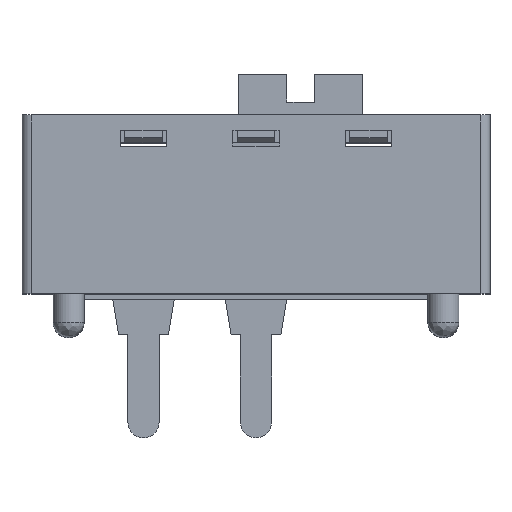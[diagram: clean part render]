
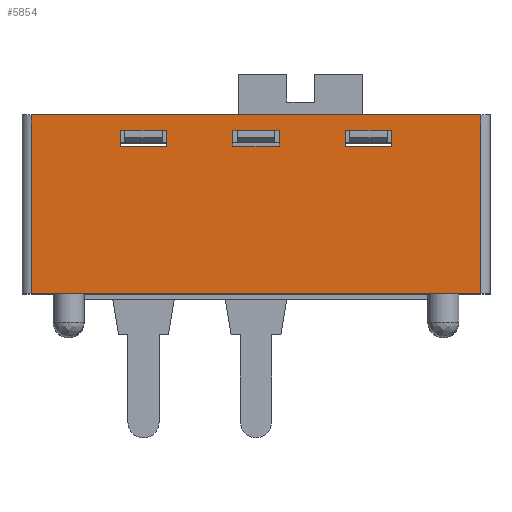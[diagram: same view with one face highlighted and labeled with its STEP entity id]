
A CAD part, top view. The second image highlights one B-rep face of the part: STEP entity #5854.
In plain terms, the highlighted planar face has unit normal (0, 0, 1).
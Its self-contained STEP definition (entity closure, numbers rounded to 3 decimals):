
#1396=ORIENTED_EDGE('',*,*,#2043,.T.);
#1397=ORIENTED_EDGE('',*,*,#2060,.F.);
#1398=ORIENTED_EDGE('',*,*,#2058,.F.);
#1399=ORIENTED_EDGE('',*,*,#2055,.F.);
#1400=ORIENTED_EDGE('',*,*,#2052,.F.);
#1401=ORIENTED_EDGE('',*,*,#2047,.F.);
#1402=ORIENTED_EDGE('',*,*,#2009,.T.);
#1403=ORIENTED_EDGE('',*,*,#2026,.F.);
#1404=ORIENTED_EDGE('',*,*,#2024,.F.);
#1405=ORIENTED_EDGE('',*,*,#2021,.F.);
#1406=ORIENTED_EDGE('',*,*,#2018,.F.);
#1407=ORIENTED_EDGE('',*,*,#2013,.F.);
#1408=ORIENTED_EDGE('',*,*,#2163,.T.);
#1409=ORIENTED_EDGE('',*,*,#2176,.F.);
#1410=ORIENTED_EDGE('',*,*,#2179,.F.);
#1411=ORIENTED_EDGE('',*,*,#2182,.F.);
#1412=ORIENTED_EDGE('',*,*,#2185,.F.);
#1413=ORIENTED_EDGE('',*,*,#2186,.F.);
#1414=ORIENTED_EDGE('',*,*,#2523,.T.);
#1415=ORIENTED_EDGE('',*,*,#2535,.T.);
#1416=ORIENTED_EDGE('',*,*,#2536,.T.);
#1417=ORIENTED_EDGE('',*,*,#2537,.T.);
#2009=EDGE_CURVE('',#2796,#2797,#3395,.T.);
#2013=EDGE_CURVE('',#2796,#2799,#3399,.T.);
#2018=EDGE_CURVE('',#2799,#2801,#3404,.T.);
#2021=EDGE_CURVE('',#2801,#2803,#3407,.T.);
#2024=EDGE_CURVE('',#2803,#2805,#3410,.T.);
#2026=EDGE_CURVE('',#2805,#2797,#3412,.T.);
#2043=EDGE_CURVE('',#2818,#2819,#3429,.T.);
#2047=EDGE_CURVE('',#2818,#2821,#3433,.T.);
#2052=EDGE_CURVE('',#2821,#2823,#3438,.T.);
#2055=EDGE_CURVE('',#2823,#2825,#3441,.T.);
#2058=EDGE_CURVE('',#2825,#2827,#3444,.T.);
#2060=EDGE_CURVE('',#2827,#2819,#3446,.T.);
#2163=EDGE_CURVE('',#2898,#2901,#3533,.T.);
#2176=EDGE_CURVE('',#2910,#2901,#3546,.T.);
#2179=EDGE_CURVE('',#2912,#2910,#3549,.T.);
#2182=EDGE_CURVE('',#2914,#2912,#3552,.T.);
#2185=EDGE_CURVE('',#2916,#2914,#3555,.T.);
#2186=EDGE_CURVE('',#2898,#2916,#3556,.T.);
#2523=EDGE_CURVE('',#3133,#3132,#3857,.T.);
#2535=EDGE_CURVE('',#3132,#3140,#3865,.T.);
#2536=EDGE_CURVE('',#3140,#3141,#3866,.T.);
#2537=EDGE_CURVE('',#3141,#3133,#3867,.T.);
#2796=VERTEX_POINT('',#8133);
#2797=VERTEX_POINT('',#8135);
#2799=VERTEX_POINT('',#8144);
#2801=VERTEX_POINT('',#8150);
#2803=VERTEX_POINT('',#8156);
#2805=VERTEX_POINT('',#8162);
#2818=VERTEX_POINT('',#8200);
#2819=VERTEX_POINT('',#8202);
#2821=VERTEX_POINT('',#8211);
#2823=VERTEX_POINT('',#8217);
#2825=VERTEX_POINT('',#8223);
#2827=VERTEX_POINT('',#8229);
#2898=VERTEX_POINT('',#8436);
#2901=VERTEX_POINT('',#8441);
#2910=VERTEX_POINT('',#8467);
#2912=VERTEX_POINT('',#8473);
#2914=VERTEX_POINT('',#8479);
#2916=VERTEX_POINT('',#8485);
#3132=VERTEX_POINT('',#9258);
#3133=VERTEX_POINT('',#9260);
#3140=VERTEX_POINT('',#9282);
#3141=VERTEX_POINT('',#9286);
#3395=LINE('',#8136,#4169);
#3399=LINE('',#8143,#4173);
#3404=LINE('',#8153,#4178);
#3407=LINE('',#8159,#4181);
#3410=LINE('',#8165,#4184);
#3412=LINE('',#8168,#4186);
#3429=LINE('',#8203,#4203);
#3433=LINE('',#8210,#4207);
#3438=LINE('',#8220,#4212);
#3441=LINE('',#8226,#4215);
#3444=LINE('',#8232,#4218);
#3446=LINE('',#8235,#4220);
#3533=LINE('',#8442,#4307);
#3546=LINE('',#8468,#4320);
#3549=LINE('',#8474,#4323);
#3552=LINE('',#8480,#4326);
#3555=LINE('',#8486,#4329);
#3556=LINE('',#8488,#4330);
#3857=LINE('',#9259,#4631);
#3865=LINE('',#9283,#4639);
#3866=LINE('',#9285,#4640);
#3867=LINE('',#9287,#4641);
#4169=VECTOR('',#6593,1000.);
#4173=VECTOR('',#6601,1000.);
#4178=VECTOR('',#6608,1000.);
#4181=VECTOR('',#6613,1000.);
#4184=VECTOR('',#6618,1000.);
#4186=VECTOR('',#6622,1000.);
#4203=VECTOR('',#6649,1000.);
#4207=VECTOR('',#6657,1000.);
#4212=VECTOR('',#6664,1000.);
#4215=VECTOR('',#6669,1000.);
#4218=VECTOR('',#6674,1000.);
#4220=VECTOR('',#6678,1000.);
#4307=VECTOR('',#6859,1000.);
#4320=VECTOR('',#6880,1000.);
#4323=VECTOR('',#6885,1000.);
#4326=VECTOR('',#6890,1000.);
#4329=VECTOR('',#6895,1000.);
#4330=VECTOR('',#6898,1000.);
#4631=VECTOR('',#7483,1000.);
#4639=VECTOR('',#7507,1000.);
#4640=VECTOR('',#7510,1000.);
#4641=VECTOR('',#7511,1000.);
#5008=EDGE_LOOP('',(#1396,#1397,#1398,#1399,#1400,#1401));
#5009=EDGE_LOOP('',(#1402,#1403,#1404,#1405,#1406,#1407));
#5010=EDGE_LOOP('',(#1408,#1409,#1410,#1411,#1412,#1413));
#5011=EDGE_LOOP('',(#1414,#1415,#1416,#1417));
#5314=FACE_BOUND('',#5008,.T.);
#5315=FACE_BOUND('',#5009,.T.);
#5316=FACE_BOUND('',#5010,.T.);
#5317=FACE_BOUND('',#5011,.T.);
#5574=PLANE('',#6206);
#5854=ADVANCED_FACE('',(#5314,#5315,#5316,#5317),#5574,.T.);
#6206=AXIS2_PLACEMENT_3D('',#9284,#7508,#7509);
#6593=DIRECTION('',(1.,0.,0.));
#6601=DIRECTION('',(-1.,0.,0.));
#6608=DIRECTION('',(0.,-1.,0.));
#6613=DIRECTION('',(1.,0.,0.));
#6618=DIRECTION('',(0.,1.,0.));
#6622=DIRECTION('',(-1.,0.,0.));
#6649=DIRECTION('',(1.,0.,0.));
#6657=DIRECTION('',(-1.,0.,0.));
#6664=DIRECTION('',(0.,-1.,0.));
#6669=DIRECTION('',(1.,0.,0.));
#6674=DIRECTION('',(0.,1.,0.));
#6678=DIRECTION('',(-1.,0.,0.));
#6859=DIRECTION('',(1.,0.,0.));
#6880=DIRECTION('',(-1.,0.,0.));
#6885=DIRECTION('',(0.,1.,0.));
#6890=DIRECTION('',(1.,0.,0.));
#6895=DIRECTION('',(0.,-1.,0.));
#6898=DIRECTION('',(-1.,0.,0.));
#7483=DIRECTION('',(1.,0.,0.));
#7507=DIRECTION('',(0.,1.,0.));
#7508=DIRECTION('',(0.,0.,1.));
#7509=DIRECTION('',(1.,0.,0.));
#7510=DIRECTION('',(-1.,0.,0.));
#7511=DIRECTION('',(0.,-1.,0.));
#8133=CARTESIAN_POINT('',(-0.762,6.68,5.372));
#8135=CARTESIAN_POINT('',(0.762,6.68,5.372));
#8136=CARTESIAN_POINT('',(0.,6.68,5.372));
#8143=CARTESIAN_POINT('',(-3.645,6.68,5.372));
#8144=CARTESIAN_POINT('',(-0.953,6.68,5.372));
#8150=CARTESIAN_POINT('',(-0.953,6.045,5.372));
#8153=CARTESIAN_POINT('',(-0.953,6.68,5.372));
#8156=CARTESIAN_POINT('',(0.953,6.045,5.372));
#8159=CARTESIAN_POINT('',(3.645,6.045,5.372));
#8162=CARTESIAN_POINT('',(0.953,6.68,5.372));
#8165=CARTESIAN_POINT('',(0.953,6.045,5.372));
#8168=CARTESIAN_POINT('',(-3.645,6.68,5.372));
#8200=CARTESIAN_POINT('',(3.835,6.68,5.372));
#8202=CARTESIAN_POINT('',(5.359,6.68,5.372));
#8203=CARTESIAN_POINT('',(0.,6.68,5.372));
#8210=CARTESIAN_POINT('',(-3.645,6.68,5.372));
#8211=CARTESIAN_POINT('',(3.645,6.68,5.372));
#8217=CARTESIAN_POINT('',(3.645,6.045,5.372));
#8220=CARTESIAN_POINT('',(3.645,6.68,5.372));
#8223=CARTESIAN_POINT('',(5.55,6.045,5.372));
#8226=CARTESIAN_POINT('',(3.645,6.045,5.372));
#8229=CARTESIAN_POINT('',(5.55,6.68,5.372));
#8232=CARTESIAN_POINT('',(5.55,6.045,5.372));
#8235=CARTESIAN_POINT('',(-3.645,6.68,5.372));
#8436=CARTESIAN_POINT('',(-5.359,6.68,5.372));
#8441=CARTESIAN_POINT('',(-3.835,6.68,5.372));
#8442=CARTESIAN_POINT('',(0.,6.68,5.372));
#8467=CARTESIAN_POINT('',(-3.645,6.68,5.372));
#8468=CARTESIAN_POINT('',(-3.645,6.68,5.372));
#8473=CARTESIAN_POINT('',(-3.645,6.045,5.372));
#8474=CARTESIAN_POINT('',(-3.645,6.045,5.372));
#8479=CARTESIAN_POINT('',(-5.55,6.045,5.372));
#8480=CARTESIAN_POINT('',(3.645,6.045,5.372));
#8485=CARTESIAN_POINT('',(-5.55,6.68,5.372));
#8486=CARTESIAN_POINT('',(-5.55,6.68,5.372));
#8488=CARTESIAN_POINT('',(-5.359,6.68,5.372));
#9258=CARTESIAN_POINT('',(9.182,0.,5.372));
#9259=CARTESIAN_POINT('',(-9.182,0.,5.372));
#9260=CARTESIAN_POINT('',(-9.182,0.,5.372));
#9282=CARTESIAN_POINT('',(9.182,7.315,5.372));
#9283=CARTESIAN_POINT('',(9.182,0.,5.372));
#9284=CARTESIAN_POINT('',(0.,0.,5.372));
#9285=CARTESIAN_POINT('',(9.182,7.315,5.372));
#9286=CARTESIAN_POINT('',(-9.182,7.315,5.372));
#9287=CARTESIAN_POINT('',(-9.182,7.315,5.372));
